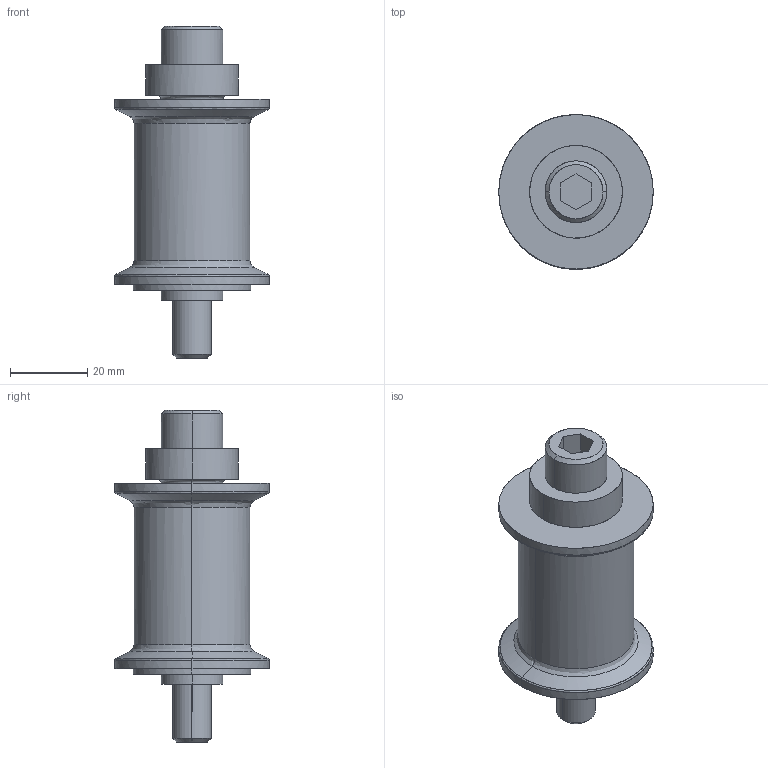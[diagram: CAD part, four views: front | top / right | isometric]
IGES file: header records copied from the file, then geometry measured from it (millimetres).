
Global section: file name: E:\UnigraphicsGraphicData\MISUMI_PRESS-PARTS\IGES\3d_egdrt30-38_03731_r00.igs; native system: NX V5.0; preprocessor: UGS NX IGES V5.0; author: MISUMI; date: 20110105.160613; units: millimetre
Bounding box: 40 x 40 x 86 mm (x, y, z)
Surface area: 18000.7 mm2 (no closed solid volume)
Topology: 0 solids, 0 shells, 81 faces, 572 edges, 572 vertices
Faces by surface type: bspline 81
